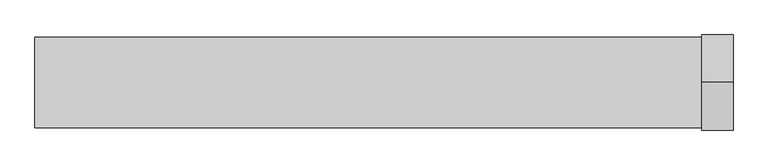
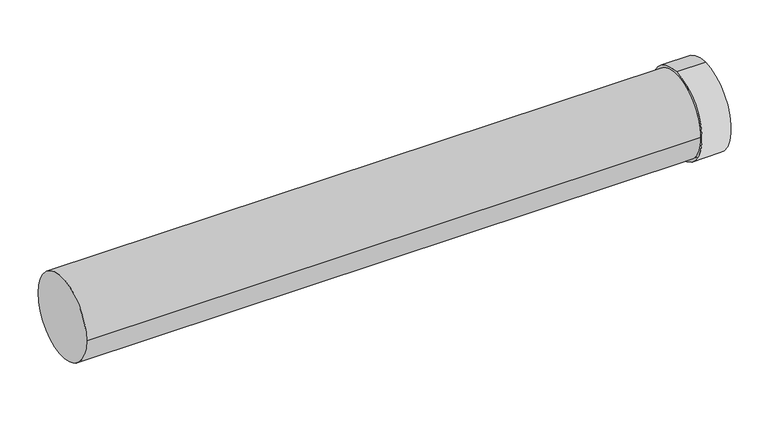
"""IFC4 building model written with IfcOpenShell, lengths in millimetres: duct fitting geometry, DERS_431_LFT_UN_Twinline Extension_M&G : ø130-150-200."""

from ifc_helpers import new_model, si_unit, point, frame, origin, origin_2d, place, context, project, spatial, polyline, circle_curve, trimmed, segment, composite_curve, outline, extrude, source, transform, mapped, element, save
from ifc_brep_helpers import plane_surface, cylinder_surface, revolved_surface, advanced_brep


def duct_fitting_acd04bb9(model_context):
    return source(origin(), model_context, "Body", "SolidModel", [
        advanced_brep(
        [(1000.0, 0.0, -68.5), (1000.0, 0.0, 68.5), (1000.0, 0.0, 65.5), (1000.0, 0.0, -65.5), (955.0, 0.0, -68.5), (955.0, 0.0, 68.5), (960.0, 0.0, -65.5), (960.0, 0.0, 65.5)],
        [
            (0, 1, circle_curve(frame((1000.0, 0.0, 0.0), z_axis=(1.0, 0.0, 0.0), x_axis=(0.0, 0.0, 1.0)), 68.5)),
            (1, 0, circle_curve(frame((1000.0, 0.0, 0.0), z_axis=(1.0, 0.0, 0.0), x_axis=(0.0, 0.0, 1.0)), 68.5)),
            (2, 3, circle_curve(frame((1000.0, 0.0, 0.0), z_axis=(-1.0, 0.0, 0.0), x_axis=(0.0, 0.0, 1.0)), 65.5)),
            (3, 2, circle_curve(frame((1000.0, 0.0, 0.0), z_axis=(-1.0, 0.0, 0.0), x_axis=(0.0, 0.0, 1.0)), 65.5)),
            (4, 5, circle_curve(frame((955.0, 0.0, 0.0), z_axis=(-1.0, 0.0, 0.0), x_axis=(0.0, 0.0, 1.0)), 68.5)),
            (5, 4, circle_curve(frame((955.0, 0.0, 0.0), z_axis=(-1.0, 0.0, 0.0), x_axis=(0.0, 0.0, 1.0)), 68.5)),
            (1, 5),
            (4, 0),
            (6, 7, circle_curve(frame((960.0, 0.0, 0.0), z_axis=(1.0, 0.0, 0.0), x_axis=(0.0, 0.0, 1.0)), 65.5)),
            (7, 6, circle_curve(frame((960.0, 0.0, 0.0), z_axis=(1.0, 0.0, 0.0), x_axis=(0.0, 0.0, 1.0)), 65.5)),
            (7, 2),
            (3, 6),
        ],
        [
            plane_surface(frame((1000.0, 0.0, 68.5), z_axis=(1.0, 0.0, 0.0), x_axis=(0.0, 1.0, 0.0))),
            plane_surface(frame((955.0, 0.0, 68.5), z_axis=(-1.0, 0.0, 0.0), x_axis=(0.0, -1.0, 0.0))),
            cylinder_surface(frame((955.0, 0.0, 0.0), z_axis=(1.0, 0.0, 0.0), x_axis=(0.0, 0.0, 1.0)), 68.5),
            plane_surface(frame((960.0, 0.0, 65.5), z_axis=(1.0, 0.0, 0.0), x_axis=(0.0, -1.0, 0.0))),
            revolved_surface(polyline([(1000.0, 0.0, 65.5), (960.0, 0.0, 65.5)]), (960.0, 0.0, 0.0), (1.0, 0.0, 0.0)),
        ],
        [
            (0, [[1, 2], [3, 4]]),
            (1, [[5, 6]]),
            (2, [[7, -5, 8, -2]]),
            (2, [[-8, -6, -7, -1]]),
            (3, [[9, 10]]),
            (4, [[11, -4, 12, -10]]),
            (4, [[-12, -3, -11, -9]]),
        ],
    ),
        extrude(outline(composite_curve([segment(trimmed(circle_curve(origin_2d(), 65.0), [point((-65.0, 0.0))], [point((65.0, 0.0))], False, "CARTESIAN"), True, "CONTINUOUS"), segment(trimmed(circle_curve(origin_2d(), 65.0), [point((65.0, 0.0))], [point((-65.0, 0.0))], False, "CARTESIAN"), True, "CONTINUOUS")], self_intersect=False)), frame((-2.39e-05, 0.0, 0.0), z_axis=(1.0, 0.0, 0.0), x_axis=(0.0, 1.0, 0.0)), (0.0, 0.0, 1.0), 960.0),
    ])


if __name__ == "__main__":
    model = new_model("IFC4")
    model_context = context("Model", 3, world=origin())
    ifc_project = project(units=[si_unit("LENGTHUNIT", "METRE", prefix="MILLI")], contexts=[model_context])
    site = spatial("IfcSite", under=ifc_project)
    building = spatial("IfcBuilding", under=site)
    placement = place(None, origin())
    duct_fitting_shape = duct_fitting_acd04bb9(model_context)
    element("IfcDuctFitting", 1, ObjectType="DERS_431_LFT_UN_Twinline Extension_M&G : ø130-150-200", at=placement, inside=building, context=model_context, shape_type="MappedRepresentation", body=[
        mapped(duct_fitting_shape, transform((0.0, 0.0, 0.0), x_axis=(1.0, 0.0, 0.0), y_axis=(0.0, 1.0, 0.0), z_axis=(0.0, 0.0, 1.0))),
    ])
    save(model, "model.ifc")
